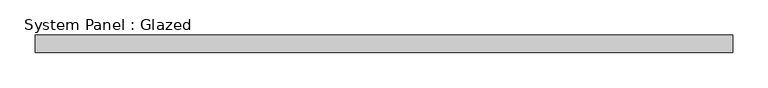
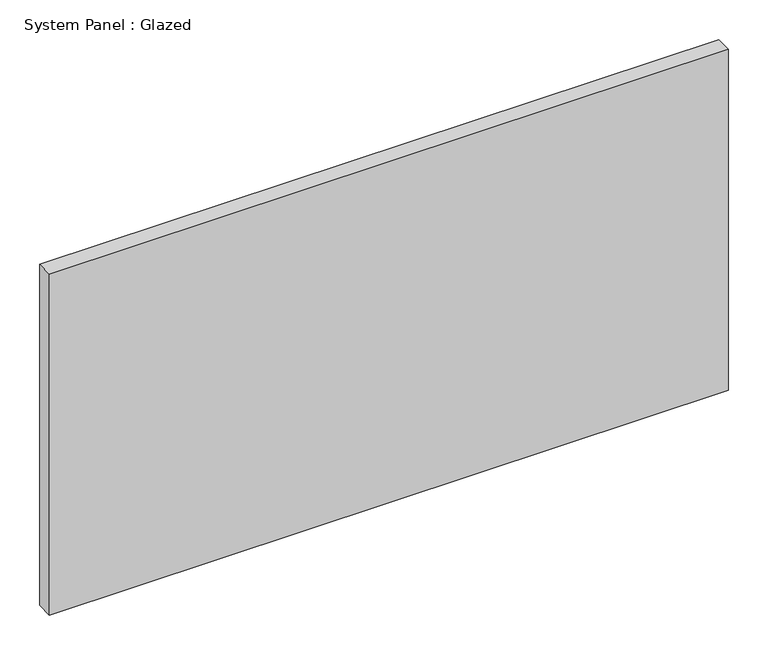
"""IFC4 building model written with IfcOpenShell, lengths in millimetres: plate geometry, System Panel : Glazed."""

from ifc_helpers import new_model, si_unit, origin, origin_with_axes, place, context, project, spatial, polyline, outline, extrude, source, transform, mapped, element, save


def system_panel_glazed_bdccf6d4(model_context):
    return source(origin(), model_context, "Body", "SweptSolid", [
        extrude(outline(polyline([(495.8333334, -49.5), (-495.8333334, -49.5), (-495.8333334, -24.5), (495.8333334, -24.5), (495.8333334, -49.5)])), origin_with_axes(), (0.0, 0.0, 1.0), 526.145744),
    ])


if __name__ == "__main__":
    model = new_model("IFC4")
    model_context = context("Model", 3, world=origin())
    ifc_project = project(units=[si_unit("LENGTHUNIT", "METRE", prefix="MILLI")], contexts=[model_context])
    site = spatial("IfcSite", under=ifc_project)
    building = spatial("IfcBuilding", under=site)
    placement = place(None, origin())
    system_panel_glazed_shape = system_panel_glazed_bdccf6d4(model_context)
    element("IfcPlate", 1, ObjectType="System Panel : Glazed", at=placement, inside=building, context=model_context, shape_type="MappedRepresentation", body=[
        mapped(system_panel_glazed_shape, transform((0.0, 0.0, 0.0), x_axis=(1.0, 0.0, 0.0), y_axis=(0.0, 1.0, 0.0), z_axis=(0.0, 0.0, 1.0))),
    ])
    save(model, "model.ifc")
